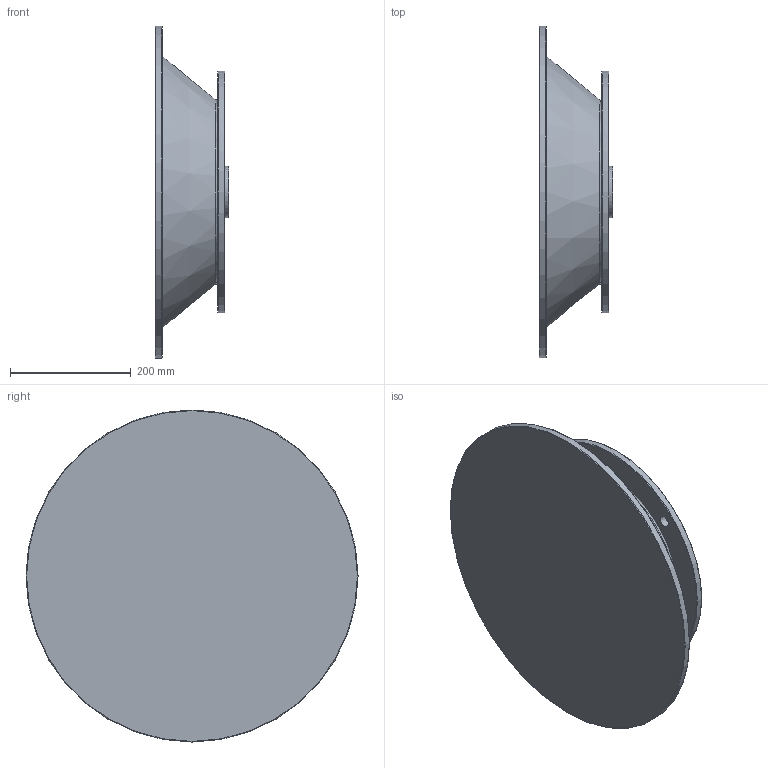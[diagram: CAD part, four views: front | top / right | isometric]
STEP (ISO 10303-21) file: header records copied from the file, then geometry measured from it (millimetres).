
FILE_DESCRIPTION((''),'2;1');
FILE_NAME('D:\PAWEŁ\ZLECENIA\DualSystem\001 Modele\DKAB150_\DK_150_STEP\200_B5_L115,5.stp','2011-12-19T15:55:23',('Pawe'),(''),'Autodesk Inventor 2009','Autodesk Inventor 2009','');
FILE_SCHEMA(('AUTOMOTIVE_DESIGN { 1 0 10303 214 1 1 1 1 }'));
Length unit declared in the file: millimetre
Products named in the file (1): 200_B5_L115,5
Bounding box: 122 x 550 x 550 mm (x, y, z)
Volume: 4742208 mm3; surface area: 944650.4 mm2
Topology: 1 solids, 1 shells, 30 faces, 58 edges, 36 vertices
Faces by surface type: plane 11, cylinder 6, bspline 6, torus 5, cone 2
Full cylindrical faces by diameter (mm): 85 x1, 284.484 x1, 300 x1, 400 x1, 550 x1
Entity records: 895 total; most frequent: CARTESIAN_POINT 281, DIRECTION 120, ORIENTED_EDGE 80, EDGE_LOOP 62, AXIS2_PLACEMENT_3D 55, EDGE_CURVE 40, VERTEX_POINT 36, FACE_BOUND 32
